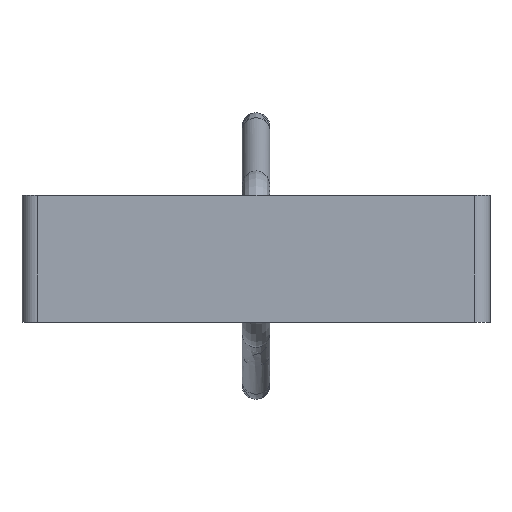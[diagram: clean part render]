
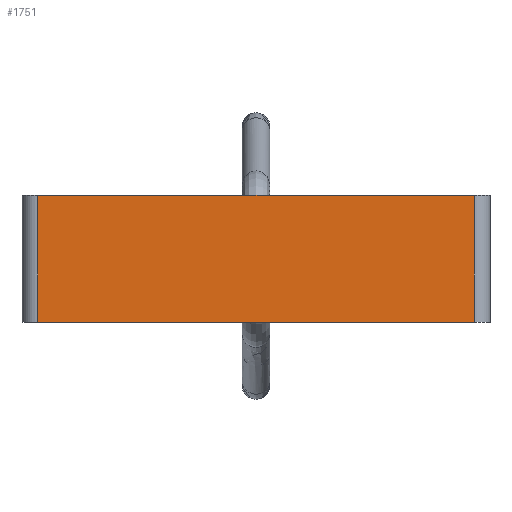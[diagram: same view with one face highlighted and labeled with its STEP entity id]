
A CAD part, front view. The second image highlights one B-rep face of the part: STEP entity #1751.
In plain terms, the highlighted planar face has unit normal (0, -1, 0).
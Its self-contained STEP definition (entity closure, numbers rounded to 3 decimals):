
#15 = CARTESIAN_POINT ( 'NONE',  ( -27.5, -4., 8. ) ) ;
#115 = DIRECTION ( 'NONE',  ( 1., 0., 0. ) ) ;
#199 = LINE ( 'NONE', #15, #1733 ) ;
#262 = CARTESIAN_POINT ( 'NONE',  ( -27.5, -4., 8. ) ) ;
#264 = ORIENTED_EDGE ( 'NONE', *, *, #1621, .F. ) ;
#293 = CARTESIAN_POINT ( 'NONE',  ( -29.5, -4., -8. ) ) ;
#386 = VECTOR ( 'NONE', #1312, 1000. ) ;
#474 = LINE ( 'NONE', #293, #892 ) ;
#688 = ORIENTED_EDGE ( 'NONE', *, *, #1546, .T. ) ;
#708 = VERTEX_POINT ( 'NONE', #795 ) ;
#759 = DIRECTION ( 'NONE',  ( 0., 0., 1. ) ) ;
#795 = CARTESIAN_POINT ( 'NONE',  ( 27.5, -4., -8. ) ) ;
#828 = EDGE_LOOP ( 'NONE', ( #688, #1519, #264, #1006 ) ) ;
#892 = VECTOR ( 'NONE', #115, 1000. ) ;
#935 = DIRECTION ( 'NONE',  ( 0., 1., 0. ) ) ;
#946 = CARTESIAN_POINT ( 'NONE',  ( -27.5, -4., -8. ) ) ;
#1006 = ORIENTED_EDGE ( 'NONE', *, *, #1277, .T. ) ;
#1009 = EDGE_CURVE ( 'NONE', #708, #1033, #1664, .T. ) ;
#1033 = VERTEX_POINT ( 'NONE', #1131 ) ;
#1066 = VERTEX_POINT ( 'NONE', #946 ) ;
#1072 = VECTOR ( 'NONE', #1209, 1000. ) ;
#1118 = CARTESIAN_POINT ( 'NONE',  ( -29.5, -4., 8. ) ) ;
#1131 = CARTESIAN_POINT ( 'NONE',  ( 27.5, -4., 8. ) ) ;
#1167 = AXIS2_PLACEMENT_3D ( 'NONE', #1118, #935, #759 ) ;
#1209 = DIRECTION ( 'NONE',  ( 1., 0., 0. ) ) ;
#1277 = EDGE_CURVE ( 'NONE', #1744, #1066, #199, .T. ) ;
#1302 = PLANE ( 'NONE',  #1167 ) ;
#1312 = DIRECTION ( 'NONE',  ( 0., 0., 1. ) ) ;
#1388 = CARTESIAN_POINT ( 'NONE',  ( -29.5, -4., 8. ) ) ;
#1479 = FACE_OUTER_BOUND ( 'NONE', #828, .T. ) ;
#1494 = CARTESIAN_POINT ( 'NONE',  ( 27.5, -4., 8. ) ) ;
#1519 = ORIENTED_EDGE ( 'NONE', *, *, #1009, .T. ) ;
#1546 = EDGE_CURVE ( 'NONE', #1066, #708, #474, .T. ) ;
#1570 = LINE ( 'NONE', #1388, #1072 ) ;
#1594 = DIRECTION ( 'NONE',  ( 0., 0., -1. ) ) ;
#1621 = EDGE_CURVE ( 'NONE', #1744, #1033, #1570, .T. ) ;
#1664 = LINE ( 'NONE', #1494, #386 ) ;
#1733 = VECTOR ( 'NONE', #1594, 1000. ) ;
#1744 = VERTEX_POINT ( 'NONE', #262 ) ;
#1751 = ADVANCED_FACE ( 'NONE', ( #1479 ), #1302, .F. ) ;
